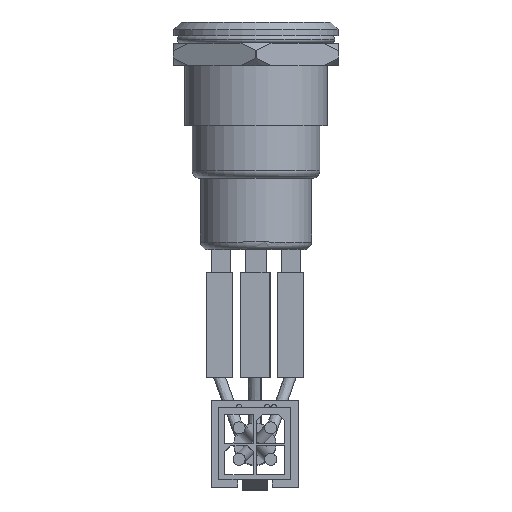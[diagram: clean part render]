
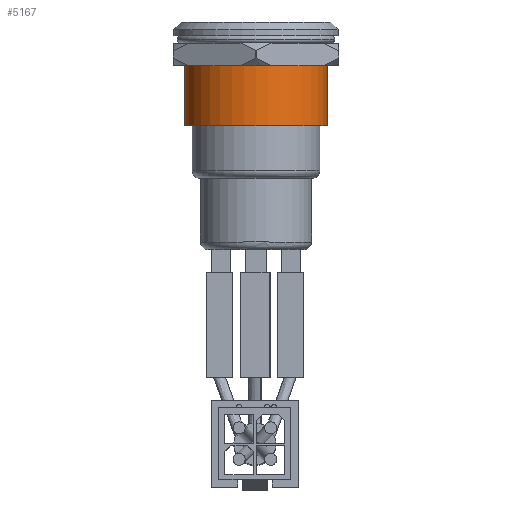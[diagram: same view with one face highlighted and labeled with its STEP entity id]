
A CAD part, top view. The second image highlights one B-rep face of the part: STEP entity #5167.
In plain terms, the highlighted cylindrical face has radius 9.5 mm (diameter 19 mm), a partial arc.
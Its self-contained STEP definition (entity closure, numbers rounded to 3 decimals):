
#52 = DIRECTION ( 'NONE',  ( 0., -1., 0. ) ) ;
#113 = VECTOR ( 'NONE', #4898, 1000. ) ;
#157 = CARTESIAN_POINT ( 'NONE',  ( 0., -12., 0. ) ) ;
#189 = DIRECTION ( 'NONE',  ( 0., -1., 0. ) ) ;
#478 = CARTESIAN_POINT ( 'NONE',  ( 0., -4., -9.5 ) ) ;
#661 = CIRCLE ( 'NONE', #5277, 9.5 ) ;
#730 = VERTEX_POINT ( 'NONE', #3681 ) ;
#870 = DIRECTION ( 'NONE',  ( 0., 0., -1. ) ) ;
#1493 = ORIENTED_EDGE ( 'NONE', *, *, #5372, .T. ) ;
#1586 = VERTEX_POINT ( 'NONE', #5155 ) ;
#1680 = EDGE_CURVE ( 'NONE', #4157, #730, #5308, .T. ) ;
#1917 = VECTOR ( 'NONE', #5634, 1000. ) ;
#2179 = DIRECTION ( 'NONE',  ( 0., 0., -1. ) ) ;
#2857 = AXIS2_PLACEMENT_3D ( 'NONE', #4486, #189, #5202 ) ;
#3114 = CIRCLE ( 'NONE', #2857, 9.5 ) ;
#3501 = CARTESIAN_POINT ( 'NONE',  ( 0., -5.981, -9.5 ) ) ;
#3681 = CARTESIAN_POINT ( 'NONE',  ( 0., -12., -9.5 ) ) ;
#3696 = LINE ( 'NONE', #6907, #113 ) ;
#3966 = ORIENTED_EDGE ( 'NONE', *, *, #1680, .T. ) ;
#4044 = CYLINDRICAL_SURFACE ( 'NONE', #7915, 9.5 ) ;
#4157 = VERTEX_POINT ( 'NONE', #478 ) ;
#4356 = CARTESIAN_POINT ( 'NONE',  ( 0., -5.981, 0. ) ) ;
#4486 = CARTESIAN_POINT ( 'NONE',  ( 0., -4., 0. ) ) ;
#4898 = DIRECTION ( 'NONE',  ( 0., -1., 0. ) ) ;
#4995 = EDGE_CURVE ( 'NONE', #7626, #1586, #3696, .T. ) ;
#5155 = CARTESIAN_POINT ( 'NONE',  ( 0., -12., 9.5 ) ) ;
#5167 = ADVANCED_FACE ( 'NONE', ( #7904 ), #4044, .T. ) ;
#5183 = DIRECTION ( 'NONE',  ( 0., -1., 0. ) ) ;
#5202 = DIRECTION ( 'NONE',  ( 0., 0., -1. ) ) ;
#5277 = AXIS2_PLACEMENT_3D ( 'NONE', #157, #5183, #870 ) ;
#5308 = LINE ( 'NONE', #3501, #1917 ) ;
#5372 = EDGE_CURVE ( 'NONE', #7626, #4157, #3114, .T. ) ;
#5571 = ORIENTED_EDGE ( 'NONE', *, *, #7152, .F. ) ;
#5634 = DIRECTION ( 'NONE',  ( 0., -1., 0. ) ) ;
#5670 = ORIENTED_EDGE ( 'NONE', *, *, #4995, .F. ) ;
#6907 = CARTESIAN_POINT ( 'NONE',  ( 0., -5.981, 9.5 ) ) ;
#7152 = EDGE_CURVE ( 'NONE', #1586, #730, #661, .T. ) ;
#7347 = CARTESIAN_POINT ( 'NONE',  ( 0., -4., 9.5 ) ) ;
#7626 = VERTEX_POINT ( 'NONE', #7347 ) ;
#7904 = FACE_OUTER_BOUND ( 'NONE', #8191, .T. ) ;
#7915 = AXIS2_PLACEMENT_3D ( 'NONE', #4356, #52, #2179 ) ;
#8191 = EDGE_LOOP ( 'NONE', ( #5670, #1493, #3966, #5571 ) ) ;
